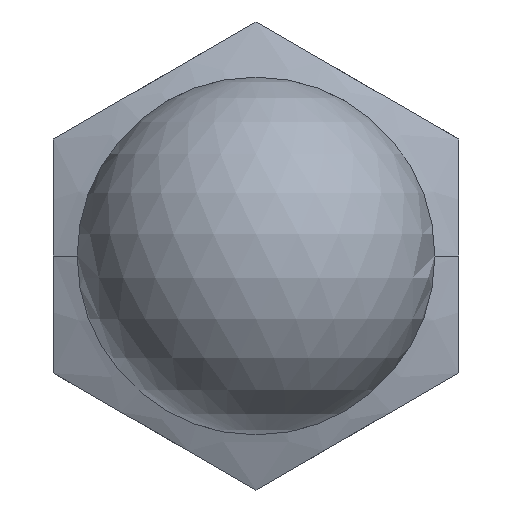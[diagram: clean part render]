
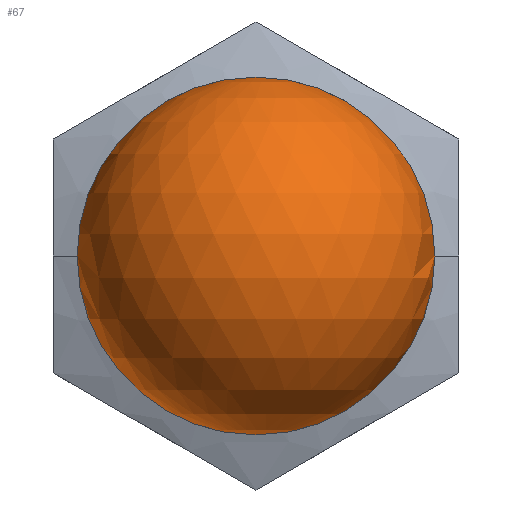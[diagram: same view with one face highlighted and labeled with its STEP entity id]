
A CAD part, front view. The second image highlights one B-rep face of the part: STEP entity #67.
In plain terms, the highlighted spherical face has radius 7.5 mm.
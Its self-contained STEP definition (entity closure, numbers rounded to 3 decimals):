
#67=ADVANCED_FACE('NONE',(#144),#145,.T.);
#144=FACE_OUTER_BOUND('',#231,.T.);
#145=SPHERICAL_SURFACE('',#232,7.5);
#231=EDGE_LOOP('',(#348,#349));
#232=AXIS2_PLACEMENT_3D('',#350,#351,#352);
#348=ORIENTED_EDGE('',*,*,#546,.F.);
#349=ORIENTED_EDGE('',*,*,#547,.F.);
#350=CARTESIAN_POINT('',(0.,-14.5,0.0));
#351=DIRECTION('',(0.0,0.0,1.0));
#352=DIRECTION('',(-1.0,0.,0.0));
#546=EDGE_CURVE('',#651,#652,#653,.T.);
#547=EDGE_CURVE('',#652,#651,#654,.T.);
#651=VERTEX_POINT('',#803);
#652=VERTEX_POINT('',#804);
#653=CIRCLE('',#805,7.5);
#654=CIRCLE('',#806,7.5);
#803=CARTESIAN_POINT('',(0.,-14.5,7.5));
#804=CARTESIAN_POINT('',(0.,-14.5,-7.5));
#805=AXIS2_PLACEMENT_3D('',#1078,#1079,#1080);
#806=AXIS2_PLACEMENT_3D('',#1081,#1082,#1083);
#1078=CARTESIAN_POINT('',(0.,-14.5,0.0));
#1079=DIRECTION('',(-0.0,1.0,0.0));
#1080=DIRECTION('',(0.0,0.0,-1.0));
#1081=CARTESIAN_POINT('',(0.,-14.5,0.0));
#1082=DIRECTION('',(-0.0,1.0,0.0));
#1083=DIRECTION('',(0.0,0.0,-1.0));
